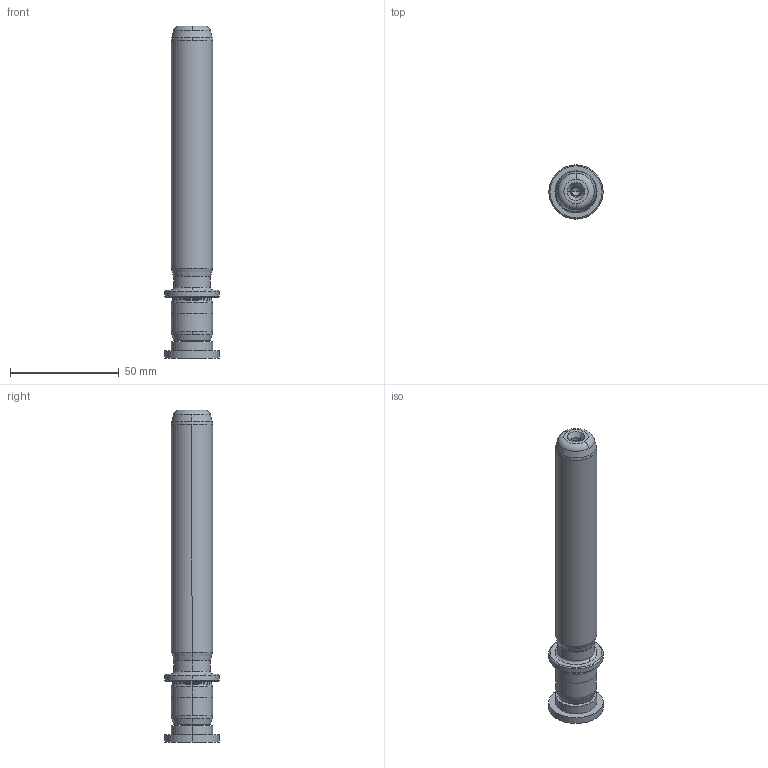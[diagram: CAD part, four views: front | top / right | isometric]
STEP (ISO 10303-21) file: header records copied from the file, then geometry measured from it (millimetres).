
FILE_DESCRIPTION((''),'2;1');
FILE_NAME('P22_019_125.stp','2009-02-02T11:03:55',(''),(''),'Mechanical Desktop 2009','Mechanical Desktop 2009',', , ');
FILE_SCHEMA(('CONFIG_CONTROL_DESIGN'));
Length unit declared in the file: millimetre
Products named in the file (2): Product; blmdl1
Assembly tree (1 placements, depth 2):
  Product
    blmdl1
Bounding box: 25 x 25 x 153 mm (x, y, z)
Volume: 43143.5 mm3; surface area: 12044.5 mm2
Topology: 3 solids, 3 shells, 99 faces, 237 edges, 149 vertices
Faces by surface type: cylinder 32, cone 28, plane 19, bspline 14, torus 6
Entity records: 3507 total; most frequent: CARTESIAN_POINT 1027, DIRECTION 562, ORIENTED_EDGE 466, AXIS2_PLACEMENT_3D 242, EDGE_CURVE 233, CIRCLE 155, VERTEX_POINT 149, EDGE_LOOP 110
